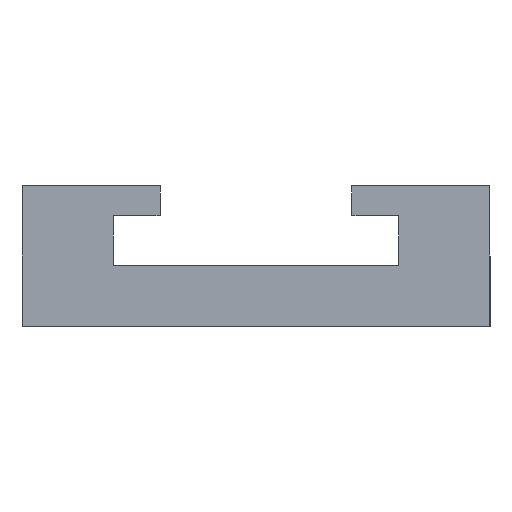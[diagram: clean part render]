
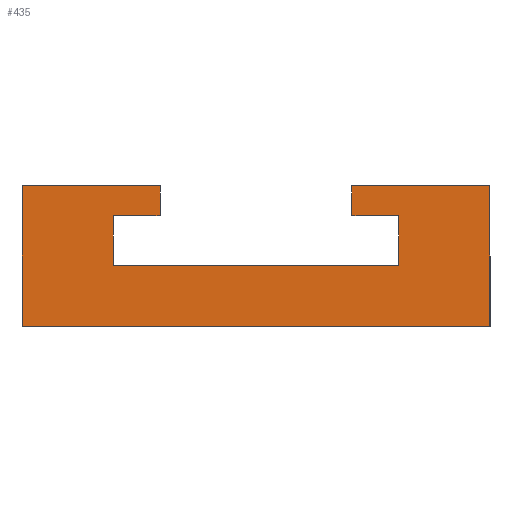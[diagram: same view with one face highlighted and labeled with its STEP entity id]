
A CAD part, left-side view. The second image highlights one B-rep face of the part: STEP entity #435.
In plain terms, the highlighted planar face has unit normal (-1, 0, 0).
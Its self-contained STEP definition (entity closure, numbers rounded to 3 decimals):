
#1 = DIRECTION ( 'NONE',  ( 0., 1., 0. ) ) ;
#2 = ORIENTED_EDGE ( 'NONE', *, *, #325, .F. ) ;
#4 = CARTESIAN_POINT ( 'NONE',  ( 0., -25., 0. ) ) ;
#5 = EDGE_CURVE ( 'NONE', #268, #93, #234, .T. ) ;
#8 = VECTOR ( 'NONE', #1, 1000. ) ;
#12 = ORIENTED_EDGE ( 'NONE', *, *, #365, .F. ) ;
#14 = CARTESIAN_POINT ( 'NONE',  ( 0., -15.25, 6.5 ) ) ;
#16 = CARTESIAN_POINT ( 'NONE',  ( 0., -15.25, 11.8 ) ) ;
#17 = LINE ( 'NONE', #305, #8 ) ;
#21 = EDGE_CURVE ( 'NONE', #403, #108, #198, .T. ) ;
#25 = DIRECTION ( 'NONE',  ( 0., 0., -1. ) ) ;
#26 = EDGE_CURVE ( 'NONE', #108, #268, #214, .T. ) ;
#28 = VECTOR ( 'NONE', #181, 1000. ) ;
#33 = EDGE_CURVE ( 'NONE', #160, #146, #17, .T. ) ;
#37 = LINE ( 'NONE', #327, #204 ) ;
#38 = CARTESIAN_POINT ( 'NONE',  ( 0., 10.25, 11.8 ) ) ;
#56 = VECTOR ( 'NONE', #91, 1000. ) ;
#59 = ORIENTED_EDGE ( 'NONE', *, *, #163, .F. ) ;
#60 = DIRECTION ( 'NONE',  ( 0., -1., 0. ) ) ;
#64 = CARTESIAN_POINT ( 'NONE',  ( 0., 15.25, 11.8 ) ) ;
#67 = CARTESIAN_POINT ( 'NONE',  ( 0., 10.25, 15. ) ) ;
#69 = ORIENTED_EDGE ( 'NONE', *, *, #291, .F. ) ;
#72 = CARTESIAN_POINT ( 'NONE',  ( 0., 0., 0. ) ) ;
#74 = VECTOR ( 'NONE', #174, 1000. ) ;
#76 = DIRECTION ( 'NONE',  ( 1., 0., 0. ) ) ;
#91 = DIRECTION ( 'NONE',  ( 0., 0., -1. ) ) ;
#93 = VERTEX_POINT ( 'NONE', #124 ) ;
#98 = ORIENTED_EDGE ( 'NONE', *, *, #261, .F. ) ;
#100 = FACE_OUTER_BOUND ( 'NONE', #256, .T. ) ;
#103 = ORIENTED_EDGE ( 'NONE', *, *, #137, .F. ) ;
#108 = VERTEX_POINT ( 'NONE', #125 ) ;
#111 = AXIS2_PLACEMENT_3D ( 'NONE', #72, #76, #395 ) ;
#113 = VECTOR ( 'NONE', #316, 1000. ) ;
#124 = CARTESIAN_POINT ( 'NONE',  ( 0., 10.25, 15. ) ) ;
#125 = CARTESIAN_POINT ( 'NONE',  ( 0., 25., 0. ) ) ;
#131 = CARTESIAN_POINT ( 'NONE',  ( 0., 15.25, 6.5 ) ) ;
#133 = CARTESIAN_POINT ( 'NONE',  ( 0., 15.25, 6.5 ) ) ;
#136 = VERTEX_POINT ( 'NONE', #14 ) ;
#137 = EDGE_CURVE ( 'NONE', #304, #403, #141, .T. ) ;
#141 = LINE ( 'NONE', #310, #56 ) ;
#144 = ORIENTED_EDGE ( 'NONE', *, *, #26, .F. ) ;
#146 = VERTEX_POINT ( 'NONE', #413 ) ;
#150 = CARTESIAN_POINT ( 'NONE',  ( 0., -10.25, 15. ) ) ;
#160 = VERTEX_POINT ( 'NONE', #16 ) ;
#163 = EDGE_CURVE ( 'NONE', #328, #136, #444, .T. ) ;
#174 = DIRECTION ( 'NONE',  ( 0., 0., -1. ) ) ;
#179 = LINE ( 'NONE', #454, #369 ) ;
#181 = DIRECTION ( 'NONE',  ( 0., 1., 0. ) ) ;
#184 = ORIENTED_EDGE ( 'NONE', *, *, #215, .F. ) ;
#187 = LINE ( 'NONE', #67, #74 ) ;
#188 = DIRECTION ( 'NONE',  ( 0., 0., 1. ) ) ;
#196 = VECTOR ( 'NONE', #25, 1000. ) ;
#197 = DIRECTION ( 'NONE',  ( 0., 0., 1. ) ) ;
#198 = LINE ( 'NONE', #4, #354 ) ;
#204 = VECTOR ( 'NONE', #188, 1000. ) ;
#214 = LINE ( 'NONE', #274, #331 ) ;
#215 = EDGE_CURVE ( 'NONE', #360, #328, #466, .T. ) ;
#223 = LINE ( 'NONE', #286, #113 ) ;
#224 = ORIENTED_EDGE ( 'NONE', *, *, #21, .F. ) ;
#231 = EDGE_CURVE ( 'NONE', #146, #396, #179, .T. ) ;
#234 = LINE ( 'NONE', #438, #323 ) ;
#242 = ORIENTED_EDGE ( 'NONE', *, *, #5, .F. ) ;
#256 = EDGE_LOOP ( 'NONE', ( #144, #224, #103, #2, #447, #459, #12, #59, #184, #69, #98, #242 ) ) ;
#257 = DIRECTION ( 'NONE',  ( 0., 0., 1. ) ) ;
#261 = EDGE_CURVE ( 'NONE', #93, #429, #187, .T. ) ;
#268 = VERTEX_POINT ( 'NONE', #377 ) ;
#269 = PLANE ( 'NONE',  #111 ) ;
#274 = CARTESIAN_POINT ( 'NONE',  ( 0., 25., 0. ) ) ;
#279 = LINE ( 'NONE', #384, #28 ) ;
#286 = CARTESIAN_POINT ( 'NONE',  ( 0., -10.25, 15. ) ) ;
#291 = EDGE_CURVE ( 'NONE', #429, #360, #279, .T. ) ;
#296 = CARTESIAN_POINT ( 'NONE',  ( 0., 15.25, 11.8 ) ) ;
#301 = DIRECTION ( 'NONE',  ( 0., -1., 0. ) ) ;
#304 = VERTEX_POINT ( 'NONE', #348 ) ;
#305 = CARTESIAN_POINT ( 'NONE',  ( 0., -15.25, 11.8 ) ) ;
#310 = CARTESIAN_POINT ( 'NONE',  ( 0., -25., 15. ) ) ;
#316 = DIRECTION ( 'NONE',  ( 0., -1., 0. ) ) ;
#323 = VECTOR ( 'NONE', #301, 1000. ) ;
#325 = EDGE_CURVE ( 'NONE', #396, #304, #223, .T. ) ;
#327 = CARTESIAN_POINT ( 'NONE',  ( 0., -15.25, 6.5 ) ) ;
#328 = VERTEX_POINT ( 'NONE', #133 ) ;
#331 = VECTOR ( 'NONE', #197, 1000. ) ;
#332 = VECTOR ( 'NONE', #60, 1000. ) ;
#348 = CARTESIAN_POINT ( 'NONE',  ( 0., -25., 15. ) ) ;
#354 = VECTOR ( 'NONE', #436, 1000. ) ;
#360 = VERTEX_POINT ( 'NONE', #296 ) ;
#365 = EDGE_CURVE ( 'NONE', #136, #160, #37, .T. ) ;
#369 = VECTOR ( 'NONE', #257, 1000. ) ;
#377 = CARTESIAN_POINT ( 'NONE',  ( 0., 25., 15. ) ) ;
#384 = CARTESIAN_POINT ( 'NONE',  ( 0., 10.25, 11.8 ) ) ;
#395 = DIRECTION ( 'NONE',  ( 0., 0., -1. ) ) ;
#396 = VERTEX_POINT ( 'NONE', #150 ) ;
#403 = VERTEX_POINT ( 'NONE', #430 ) ;
#413 = CARTESIAN_POINT ( 'NONE',  ( 0., -10.25, 11.8 ) ) ;
#429 = VERTEX_POINT ( 'NONE', #38 ) ;
#430 = CARTESIAN_POINT ( 'NONE',  ( 0., -25., 0. ) ) ;
#435 = ADVANCED_FACE ( 'NONE', ( #100 ), #269, .F. ) ;
#436 = DIRECTION ( 'NONE',  ( 0., 1., 0. ) ) ;
#438 = CARTESIAN_POINT ( 'NONE',  ( 0., 25., 15. ) ) ;
#444 = LINE ( 'NONE', #131, #332 ) ;
#447 = ORIENTED_EDGE ( 'NONE', *, *, #231, .F. ) ;
#454 = CARTESIAN_POINT ( 'NONE',  ( 0., -10.25, 11.8 ) ) ;
#459 = ORIENTED_EDGE ( 'NONE', *, *, #33, .F. ) ;
#466 = LINE ( 'NONE', #64, #196 ) ;
